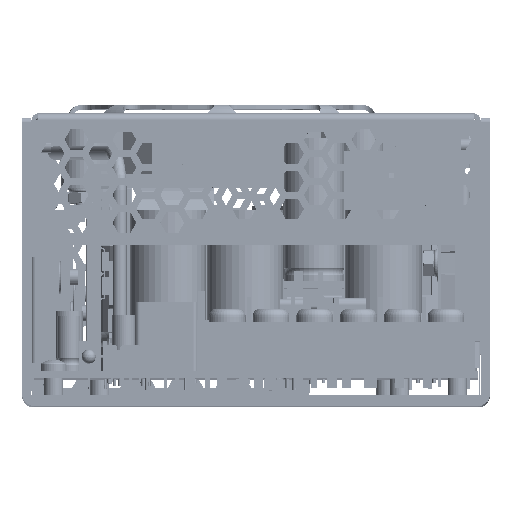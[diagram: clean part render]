
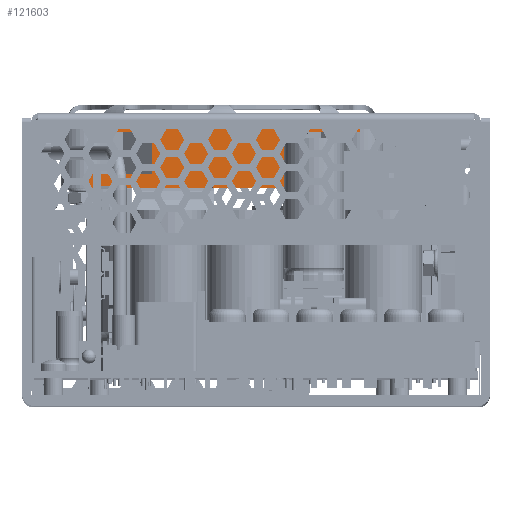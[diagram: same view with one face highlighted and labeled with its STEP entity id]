
A CAD part, top view. The second image highlights one B-rep face of the part: STEP entity #121603.
In plain terms, the highlighted planar face has unit normal (0, 0, 1) as drawn and (1, 0, 0) by its records, which use the part's own axes.
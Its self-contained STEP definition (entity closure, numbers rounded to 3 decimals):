
#22811 = CARTESIAN_POINT ( 'NONE',  ( 35., -30., 12. ) ) ;
#22818 = CARTESIAN_POINT ( 'NONE',  ( 35., -15.205, 12. ) ) ;
#22961 = LINE ( 'NONE', #22996, #22984 ) ;
#22981 = CARTESIAN_POINT ( 'NONE',  ( 35., -15.205, 3. ) ) ;
#22984 = VECTOR ( 'NONE', #22995, 1000. ) ;
#22995 = DIRECTION ( 'NONE',  ( 0., -1., 0. ) ) ;
#22996 = CARTESIAN_POINT ( 'NONE',  ( 35., -35., 3. ) ) ;
#23009 = CARTESIAN_POINT ( 'NONE',  ( 35., -30., 3. ) ) ;
#23046 = DIRECTION ( 'NONE',  ( 0., -1., 0. ) ) ;
#23047 = VECTOR ( 'NONE', #23046, 1000. ) ;
#23048 = CARTESIAN_POINT ( 'NONE',  ( 35., -35., 12. ) ) ;
#23049 = LINE ( 'NONE', #23048, #23047 ) ;
#23056 = DIRECTION ( 'NONE',  ( 0., -1., 0. ) ) ;
#23057 = VECTOR ( 'NONE', #23056, 1000. ) ;
#23058 = CARTESIAN_POINT ( 'NONE',  ( 35., 15.205, 12. ) ) ;
#23059 = LINE ( 'NONE', #23058, #23057 ) ;
#23060 = CARTESIAN_POINT ( 'NONE',  ( 35., 30., 12. ) ) ;
#23065 = CARTESIAN_POINT ( 'NONE',  ( 35., 15.205, 12. ) ) ;
#23093 = LINE ( 'NONE', #23113, #23112 ) ;
#23111 = DIRECTION ( 'NONE',  ( 0., 0., -1. ) ) ;
#23112 = VECTOR ( 'NONE', #23111, 1000. ) ;
#23113 = CARTESIAN_POINT ( 'NONE',  ( 35., -15.205, 39.995 ) ) ;
#23148 = CARTESIAN_POINT ( 'NONE',  ( 35., 15.205, 3. ) ) ;
#23153 = CARTESIAN_POINT ( 'NONE',  ( 35., 30., 3. ) ) ;
#23321 = CARTESIAN_POINT ( 'NONE',  ( 35., 15.205, 39.995 ) ) ;
#23322 = LINE ( 'NONE', #23321, #23381 ) ;
#23375 = DIRECTION ( 'NONE',  ( 0., -1., 0. ) ) ;
#23376 = VECTOR ( 'NONE', #23375, 1000. ) ;
#23377 = CARTESIAN_POINT ( 'NONE',  ( 35., 15.205, 3. ) ) ;
#23379 = LINE ( 'NONE', #23377, #23376 ) ;
#23380 = DIRECTION ( 'NONE',  ( 0., 0., -1. ) ) ;
#23381 = VECTOR ( 'NONE', #23380, 1000. ) ;
#23576 = CARTESIAN_POINT ( 'NONE',  ( 35., 30., 15. ) ) ;
#23715 = CARTESIAN_POINT ( 'NONE',  ( 35., -30., 15. ) ) ;
#23737 = CARTESIAN_POINT ( 'NONE',  ( 35., -30., 0. ) ) ;
#23739 = DIRECTION ( 'NONE',  ( 0., 1., 0. ) ) ;
#23740 = VECTOR ( 'NONE', #23739, 1000. ) ;
#23741 = CARTESIAN_POINT ( 'NONE',  ( 35., -35., 0. ) ) ;
#23743 = LINE ( 'NONE', #23741, #23740 ) ;
#23747 = DIRECTION ( 'NONE',  ( 0., 0., 1. ) ) ;
#23748 = VECTOR ( 'NONE', #23747, 1000. ) ;
#23749 = CARTESIAN_POINT ( 'NONE',  ( 35., 30., 15. ) ) ;
#23758 = LINE ( 'NONE', #23749, #23748 ) ;
#23765 = DIRECTION ( 'NONE',  ( 0., 1., 0. ) ) ;
#23766 = VECTOR ( 'NONE', #23765, 1000. ) ;
#23767 = CARTESIAN_POINT ( 'NONE',  ( 35., -35., 15. ) ) ;
#23768 = LINE ( 'NONE', #23767, #23766 ) ;
#23793 = CARTESIAN_POINT ( 'NONE',  ( 35., 30., 0. ) ) ;
#23827 = CARTESIAN_POINT ( 'NONE',  ( 35., 30., 15. ) ) ;
#23842 = DIRECTION ( 'NONE',  ( 0., 0., 1. ) ) ;
#23843 = VECTOR ( 'NONE', #23842, 1000. ) ;
#23863 = LINE ( 'NONE', #23827, #23843 ) ;
#23867 = PLANE ( 'NONE',  #23889 ) ;
#23871 = FACE_OUTER_BOUND ( 'NONE', #121500, .T. ) ;
#23887 = CARTESIAN_POINT ( 'NONE',  ( 35., -35., 15. ) ) ;
#23889 = AXIS2_PLACEMENT_3D ( 'NONE', #23887, #23932, #23931 ) ;
#23904 = DIRECTION ( 'NONE',  ( 0., 0., -1. ) ) ;
#23905 = VECTOR ( 'NONE', #23904, 1000. ) ;
#23906 = CARTESIAN_POINT ( 'NONE',  ( 35., -30., 15. ) ) ;
#23907 = LINE ( 'NONE', #23906, #23905 ) ;
#23926 = DIRECTION ( 'NONE',  ( 0., 0., -1. ) ) ;
#23927 = VECTOR ( 'NONE', #23926, 1000. ) ;
#23928 = CARTESIAN_POINT ( 'NONE',  ( 35., -30., 15. ) ) ;
#23929 = LINE ( 'NONE', #23928, #23927 ) ;
#23931 = DIRECTION ( 'NONE',  ( 0., 0., 1. ) ) ;
#23932 = DIRECTION ( 'NONE',  ( -1., 0., 0. ) ) ;
#120806 = VERTEX_POINT ( 'NONE', #22818 ) ;
#120818 = VERTEX_POINT ( 'NONE', #22811 ) ;
#120894 = VERTEX_POINT ( 'NONE', #23009 ) ;
#120913 = EDGE_CURVE ( 'NONE', #120915, #120894, #22961, .T. ) ;
#120915 = VERTEX_POINT ( 'NONE', #22981 ) ;
#120918 = EDGE_CURVE ( 'NONE', #120806, #120818, #23049, .T. ) ;
#120972 = VERTEX_POINT ( 'NONE', #23065 ) ;
#120975 = EDGE_CURVE ( 'NONE', #120978, #120972, #23059, .T. ) ;
#120978 = VERTEX_POINT ( 'NONE', #23060 ) ;
#121015 = EDGE_CURVE ( 'NONE', #120806, #120915, #23093, .T. ) ;
#121056 = VERTEX_POINT ( 'NONE', #23153 ) ;
#121065 = VERTEX_POINT ( 'NONE', #23148 ) ;
#121174 = EDGE_CURVE ( 'NONE', #120972, #121065, #23322, .T. ) ;
#121175 = EDGE_CURVE ( 'NONE', #121056, #121065, #23379, .T. ) ;
#121366 = VERTEX_POINT ( 'NONE', #23576 ) ;
#121464 = VERTEX_POINT ( 'NONE', #23715 ) ;
#121471 = EDGE_CURVE ( 'NONE', #121464, #121366, #23768, .T. ) ;
#121484 = EDGE_CURVE ( 'NONE', #121522, #121056, #23758, .T. ) ;
#121486 = EDGE_CURVE ( 'NONE', #121526, #121522, #23743, .T. ) ;
#121500 = EDGE_LOOP ( 'NONE', ( #121627, #121629, #121608, #121609, #121611, #121615, #121638, #121619, #121617, #121583, #121605, #121589 ) ) ;
#121522 = VERTEX_POINT ( 'NONE', #23793 ) ;
#121526 = VERTEX_POINT ( 'NONE', #23737 ) ;
#121583 = ORIENTED_EDGE ( 'NONE', *, *, #121174, .F. ) ;
#121585 = EDGE_CURVE ( 'NONE', #120978, #121366, #23863, .T. ) ;
#121589 = ORIENTED_EDGE ( 'NONE', *, *, #121585, .T. ) ;
#121603 = ADVANCED_FACE ( 'NONE', ( #23871 ), #23867, .F. ) ;
#121605 = ORIENTED_EDGE ( 'NONE', *, *, #120975, .F. ) ;
#121608 = ORIENTED_EDGE ( 'NONE', *, *, #120918, .F. ) ;
#121609 = ORIENTED_EDGE ( 'NONE', *, *, #121015, .T. ) ;
#121610 = EDGE_CURVE ( 'NONE', #120894, #121526, #23929, .T. ) ;
#121611 = ORIENTED_EDGE ( 'NONE', *, *, #120913, .T. ) ;
#121615 = ORIENTED_EDGE ( 'NONE', *, *, #121610, .T. ) ;
#121617 = ORIENTED_EDGE ( 'NONE', *, *, #121175, .T. ) ;
#121619 = ORIENTED_EDGE ( 'NONE', *, *, #121484, .T. ) ;
#121627 = ORIENTED_EDGE ( 'NONE', *, *, #121471, .F. ) ;
#121629 = ORIENTED_EDGE ( 'NONE', *, *, #121639, .T. ) ;
#121638 = ORIENTED_EDGE ( 'NONE', *, *, #121486, .T. ) ;
#121639 = EDGE_CURVE ( 'NONE', #121464, #120818, #23907, .T. ) ;
